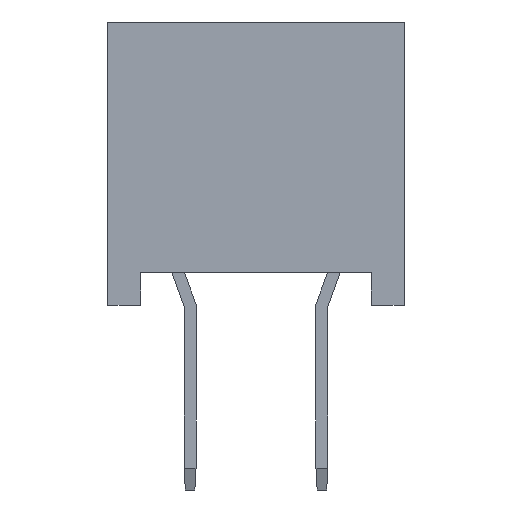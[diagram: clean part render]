
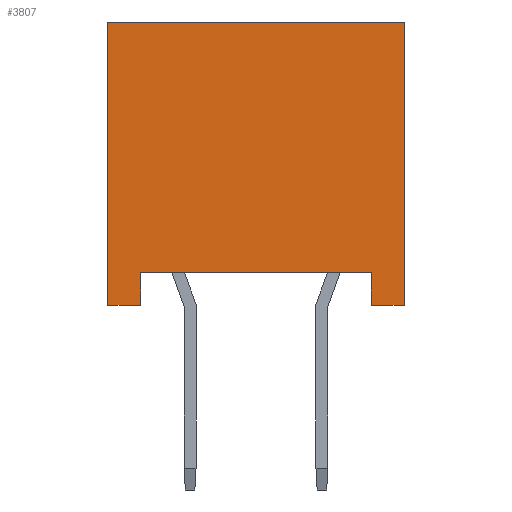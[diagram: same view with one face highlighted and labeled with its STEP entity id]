
A CAD part, left-side view. The second image highlights one B-rep face of the part: STEP entity #3807.
In plain terms, the highlighted planar face has unit normal (-1, 0, 0).
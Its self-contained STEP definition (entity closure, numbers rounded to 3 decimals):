
#2052 = EDGE_CURVE('',#2053,#2055,#2057,.T.);
#2053 = VERTEX_POINT('',#2054);
#2054 = CARTESIAN_POINT('',(-6.3,-1.75,
    0.5));
#2055 = VERTEX_POINT('',#2056);
#2056 = CARTESIAN_POINT('',(-6.3,1.75,
    0.5));
#2057 = LINE('',#2058,#2059);
#2058 = CARTESIAN_POINT('',(-6.3,-1.75,
    0.5));
#2059 = VECTOR('',#2060,1.);
#2060 = DIRECTION('',(0.,1.,0.));
#2502 = VERTEX_POINT('',#2503);
#2503 = CARTESIAN_POINT('',(-6.3,-1.75,
    0.));
#2511 = VERTEX_POINT('',#2512);
#2512 = CARTESIAN_POINT('',(-6.3,-2.25,
    0.));
#2518 = EDGE_CURVE('',#2502,#2511,#2519,.T.);
#2519 = LINE('',#2520,#2521);
#2520 = CARTESIAN_POINT('',(-6.3,-2.25,
    0.));
#2521 = VECTOR('',#2522,1.);
#2522 = DIRECTION('',(-0.,-1.,-0.));
#2738 = VERTEX_POINT('',#2739);
#2739 = CARTESIAN_POINT('',(-6.3,2.25,4.3
    ));
#2745 = EDGE_CURVE('',#2738,#2746,#2748,.T.);
#2746 = VERTEX_POINT('',#2747);
#2747 = CARTESIAN_POINT('',(-6.3,-2.25,
    4.3));
#2748 = LINE('',#2749,#2750);
#2749 = CARTESIAN_POINT('',(-6.3,-2.25,
    4.3));
#2750 = VECTOR('',#2751,1.);
#2751 = DIRECTION('',(-0.,-1.,-0.));
#3788 = VERTEX_POINT('',#3789);
#3789 = CARTESIAN_POINT('',(-6.3,2.25,
    0.));
#3795 = EDGE_CURVE('',#2738,#3788,#3796,.T.);
#3796 = LINE('',#3797,#3798);
#3797 = CARTESIAN_POINT('',(-6.3,2.25,4.3
    ));
#3798 = VECTOR('',#3799,1.);
#3799 = DIRECTION('',(-0.,-0.,-1.));
#3807 = ADVANCED_FACE('',(#3808),#3840,.F.);
#3808 = FACE_BOUND('',#3809,.T.);
#3809 = EDGE_LOOP('',(#3810,#3811,#3817,#3818,#3824,#3825,#3826,#3834));
#3810 = ORIENTED_EDGE('',*,*,#2052,.F.);
#3811 = ORIENTED_EDGE('',*,*,#3812,.F.);
#3812 = EDGE_CURVE('',#2502,#2053,#3813,.T.);
#3813 = LINE('',#3814,#3815);
#3814 = CARTESIAN_POINT('',(-6.3,-1.75,
    -0.5));
#3815 = VECTOR('',#3816,1.);
#3816 = DIRECTION('',(0.,0.,1.));
#3817 = ORIENTED_EDGE('',*,*,#2518,.T.);
#3818 = ORIENTED_EDGE('',*,*,#3819,.F.);
#3819 = EDGE_CURVE('',#2746,#2511,#3820,.T.);
#3820 = LINE('',#3821,#3822);
#3821 = CARTESIAN_POINT('',(-6.3,-2.25,
    4.3));
#3822 = VECTOR('',#3823,1.);
#3823 = DIRECTION('',(-0.,-0.,-1.));
#3824 = ORIENTED_EDGE('',*,*,#2745,.F.);
#3825 = ORIENTED_EDGE('',*,*,#3795,.T.);
#3826 = ORIENTED_EDGE('',*,*,#3827,.T.);
#3827 = EDGE_CURVE('',#3788,#3828,#3830,.T.);
#3828 = VERTEX_POINT('',#3829);
#3829 = CARTESIAN_POINT('',(-6.3,1.75,
    0.));
#3830 = LINE('',#3831,#3832);
#3831 = CARTESIAN_POINT('',(-6.3,-2.25,
    0.));
#3832 = VECTOR('',#3833,1.);
#3833 = DIRECTION('',(-0.,-1.,-0.));
#3834 = ORIENTED_EDGE('',*,*,#3835,.F.);
#3835 = EDGE_CURVE('',#2055,#3828,#3836,.T.);
#3836 = LINE('',#3837,#3838);
#3837 = CARTESIAN_POINT('',(-6.3,1.75,
    -0.5));
#3838 = VECTOR('',#3839,1.);
#3839 = DIRECTION('',(-0.,-0.,-1.));
#3840 = PLANE('',#3841);
#3841 = AXIS2_PLACEMENT_3D('',#3842,#3843,#3844);
#3842 = CARTESIAN_POINT('',(-6.3,-2.25,
    4.3));
#3843 = DIRECTION('',(1.,0.,0.));
#3844 = DIRECTION('',(0.,0.,-1.));
